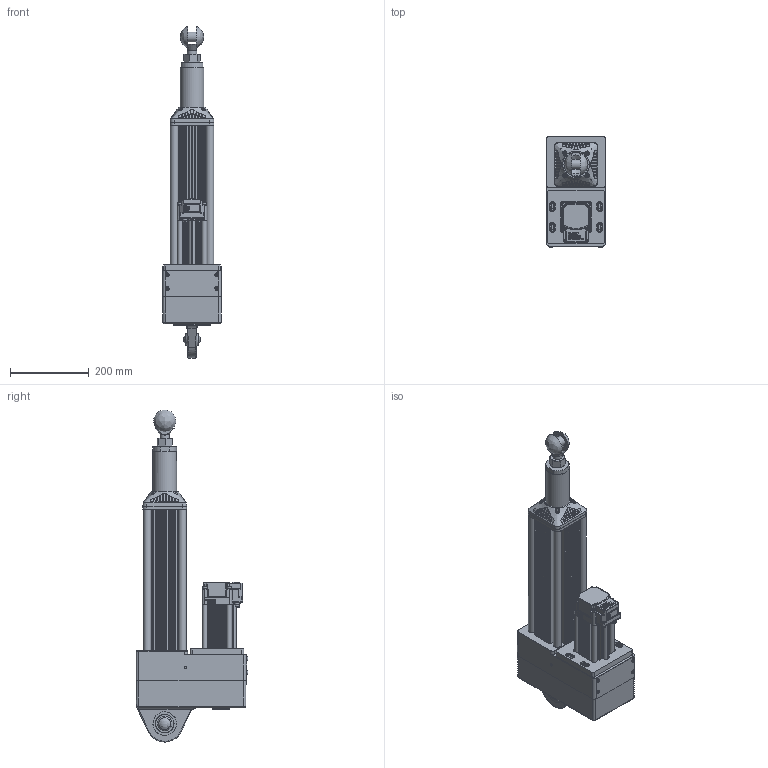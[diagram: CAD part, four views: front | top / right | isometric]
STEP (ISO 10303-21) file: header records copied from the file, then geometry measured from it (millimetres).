
FILE_DESCRIPTION (( 'STEP AP214' ), '1' );
FILE_NAME ('AG_9833 +-100.STEP', '2025-01-30T12:41:48', ( '' ), ( '' ), 'SwSTEP 2.0', 'SolidWorks 2022', '' );
FILE_SCHEMA (( 'AUTOMOTIVE_DESIGN' ));
Length unit declared in the file: millimetre
Products named in the file (1): AG_9833 +-100
Bounding box: 150 x 284.75 x 844.74 mm (x, y, z)
Volume: 12773242.3 mm3; surface area: 1286941.5 mm2
Topology: 62 solids, 63 shells, 4421 faces, 11357 edges, 7389 vertices
Faces by surface type: plane 1923, cylinder 1175, bspline 900, cone 251, torus 153, sphere 19
Full cylindrical faces by diameter (mm): 2.5 x2, 2.845 x2, 2.934 x2, 3 x2, 3.24 x1, 3.242 x1, 3.5 x2, 3.676 x1, 4.019 x8, 4.2 x9, 4.201 x1, 4.3 x1, 4.773 x4, 5 x12, 5.5 x4, 5.7 x1, 5.9 x1, 6 x4, 6.466 x1, 6.6 x4, 6.8 x2, 6.9 x3, 7 x1, 7.8 x1, 8 x7, 8.1 x1, 8.16 x10, 8.49 x4, 8.5 x13, 9 x1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
Entity records: 218793 total; most frequent: CARTESIAN_POINT 68774, ORIENTED_EDGE 21900, DIRECTION 18752, EDGE_CURVE 10950, VERTEX_POINT 7303, AXIS2_PLACEMENT_3D 6442, VECTOR 5868, LINE 5868
